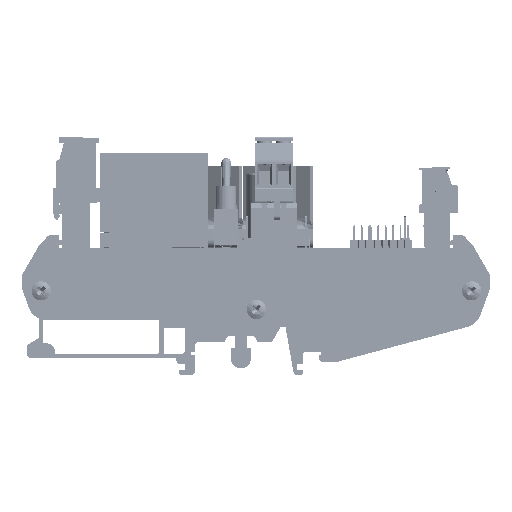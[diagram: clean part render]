
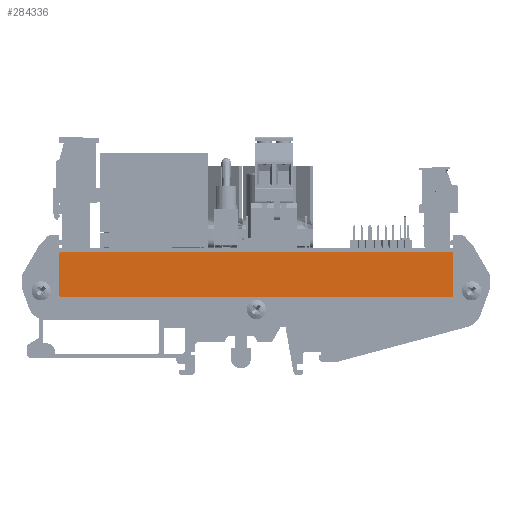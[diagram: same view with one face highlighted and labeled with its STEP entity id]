
A CAD part, left-side view. The second image highlights one B-rep face of the part: STEP entity #284336.
In plain terms, the highlighted planar face has unit normal (-1, 0, 0).
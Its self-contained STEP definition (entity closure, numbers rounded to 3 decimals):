
#4362=PLANE('',#299659);
#11161=FACE_OUTER_BOUND('',#21074,.T.);
#21074=EDGE_LOOP('',(#208683,#208684,#208685,#208686,#208687,#208688,#208689,
#208690));
#33749=LINE('',#422975,#69061);
#33753=LINE('',#422984,#69065);
#33754=LINE('',#422989,#69066);
#33755=LINE('',#422994,#69067);
#69061=VECTOR('',#326046,1000.);
#69065=VECTOR('',#326052,1000.);
#69066=VECTOR('',#326057,1000.);
#69067=VECTOR('',#326062,1000.);
#103297=CIRCLE('',#299660,0.5);
#103298=CIRCLE('',#299661,0.5);
#103299=CIRCLE('',#299662,0.5);
#103300=CIRCLE('',#299663,0.5);
#116618=VERTEX_POINT('',#422968);
#116621=VERTEX_POINT('',#422973);
#116623=VERTEX_POINT('',#422978);
#116625=VERTEX_POINT('',#422982);
#116626=VERTEX_POINT('',#422986);
#116627=VERTEX_POINT('',#422988);
#116628=VERTEX_POINT('',#422991);
#116629=VERTEX_POINT('',#422993);
#158109=EDGE_CURVE('',#116618,#116621,#33749,.T.);
#158113=EDGE_CURVE('',#116623,#116625,#33753,.T.);
#158114=EDGE_CURVE('',#116626,#116625,#103297,.T.);
#158115=EDGE_CURVE('',#116626,#116627,#33754,.T.);
#158116=EDGE_CURVE('',#116618,#116627,#103298,.T.);
#158117=EDGE_CURVE('',#116628,#116621,#103299,.T.);
#158118=EDGE_CURVE('',#116628,#116629,#33755,.T.);
#158119=EDGE_CURVE('',#116623,#116629,#103300,.T.);
#208683=ORIENTED_EDGE('',*,*,#158113,.T.);
#208684=ORIENTED_EDGE('',*,*,#158114,.F.);
#208685=ORIENTED_EDGE('',*,*,#158115,.T.);
#208686=ORIENTED_EDGE('',*,*,#158116,.F.);
#208687=ORIENTED_EDGE('',*,*,#158109,.T.);
#208688=ORIENTED_EDGE('',*,*,#158117,.F.);
#208689=ORIENTED_EDGE('',*,*,#158118,.T.);
#208690=ORIENTED_EDGE('',*,*,#158119,.F.);
#284336=ADVANCED_FACE('',(#11161),#4362,.T.);
#299659=AXIS2_PLACEMENT_3D('',#422985,#326053,#326054);
#299660=AXIS2_PLACEMENT_3D('',#422987,#326055,#326056);
#299661=AXIS2_PLACEMENT_3D('',#422990,#326058,#326059);
#299662=AXIS2_PLACEMENT_3D('',#422992,#326060,#326061);
#299663=AXIS2_PLACEMENT_3D('',#422995,#326063,#326064);
#326046=DIRECTION('',(0.,0.,1.));
#326052=DIRECTION('',(0.,0.,-1.));
#326053=DIRECTION('center_axis',(-1.,0.,0.));
#326054=DIRECTION('ref_axis',(0.,-1.,0.));
#326055=DIRECTION('center_axis',(1.,0.,0.));
#326056=DIRECTION('ref_axis',(0.,1.,0.));
#326057=DIRECTION('',(0.,-1.,0.));
#326058=DIRECTION('center_axis',(1.,0.,0.));
#326059=DIRECTION('ref_axis',(0.,1.,0.));
#326060=DIRECTION('center_axis',(1.,0.,0.));
#326061=DIRECTION('ref_axis',(0.,1.,0.));
#326062=DIRECTION('',(0.,1.,0.));
#326063=DIRECTION('center_axis',(1.,0.,0.));
#326064=DIRECTION('ref_axis',(0.,1.,0.));
#422968=CARTESIAN_POINT('',(-1.23,0.856,-12.7));
#422973=CARTESIAN_POINT('',(-1.23,0.856,-1.7));
#422975=CARTESIAN_POINT('',(-1.23,0.856,-29.592));
#422978=CARTESIAN_POINT('',(-1.23,106.656,-1.7));
#422982=CARTESIAN_POINT('',(-1.23,106.656,-12.7));
#422984=CARTESIAN_POINT('',(-1.23,106.656,-29.592));
#422985=CARTESIAN_POINT('Origin',(-1.23,24.806,-14.352));
#422986=CARTESIAN_POINT('',(-1.23,106.156,-13.2));
#422987=CARTESIAN_POINT('Origin',(-1.23,106.156,-12.7));
#422988=CARTESIAN_POINT('',(-1.23,1.356,-13.2));
#422989=CARTESIAN_POINT('',(-1.23,85.727,-13.2));
#422990=CARTESIAN_POINT('Origin',(-1.23,1.356,-12.7));
#422991=CARTESIAN_POINT('',(-1.23,1.356,-1.2));
#422992=CARTESIAN_POINT('Origin',(-1.23,1.356,-1.7));
#422993=CARTESIAN_POINT('',(-1.23,106.156,-1.2));
#422994=CARTESIAN_POINT('',(-1.23,85.727,-1.2));
#422995=CARTESIAN_POINT('Origin',(-1.23,106.156,-1.7));
